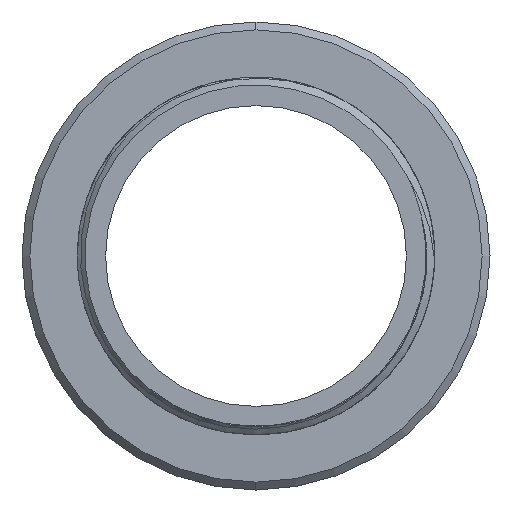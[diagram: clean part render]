
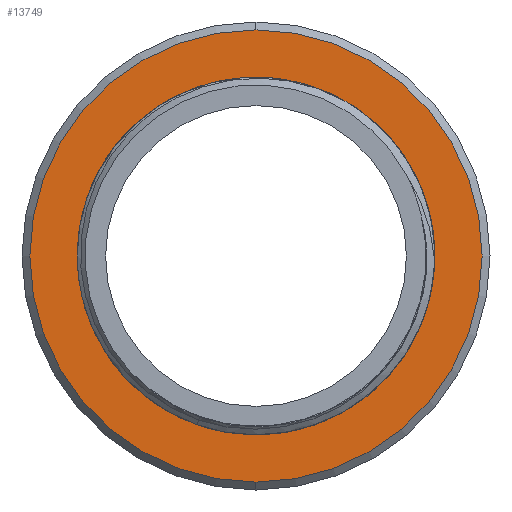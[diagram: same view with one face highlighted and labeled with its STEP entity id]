
A CAD part, left-side view. The second image highlights one B-rep face of the part: STEP entity #13749.
In plain terms, the highlighted planar face has unit normal (-1, 0, 0).
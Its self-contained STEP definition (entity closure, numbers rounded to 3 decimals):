
#2=CARTESIAN_POINT('',(0.,0.,0.));
#3=DIRECTION('',(-1.,0.,0.));
#4=DIRECTION('',(0.,0.,-1.));
#5=AXIS2_PLACEMENT_3D('',#2,#3,#4);
#7=CARTESIAN_POINT('',(0.,0.,0.));
#8=DIRECTION('',(-1.,0.,0.));
#9=DIRECTION('',(0.,0.,1.));
#10=AXIS2_PLACEMENT_3D('',#7,#8,#9);
#20=CARTESIAN_POINT('',(0.,0.,0.));
#21=DIRECTION('',(-1.,0.,0.));
#22=DIRECTION('',(0.,0.,1.));
#23=AXIS2_PLACEMENT_3D('',#20,#21,#22);
#25=CARTESIAN_POINT('',(0.,0.,0.));
#26=DIRECTION('',(1.,0.,0.));
#27=DIRECTION('',(0.,0.,1.));
#28=AXIS2_PLACEMENT_3D('',#25,#26,#27);
#13152=CARTESIAN_POINT('',(0.,0.,6.4));
#13154=VERTEX_POINT('',#13152);
#13156=CARTESIAN_POINT('',(0.,0.,-6.4));
#13158=VERTEX_POINT('',#13156);
#13169=CARTESIAN_POINT('',(0.,0.,-8.59));
#13170=CARTESIAN_POINT('',(0.,0.,8.59));
#13171=VERTEX_POINT('',#13169);
#13172=VERTEX_POINT('',#13170);
#13732=CARTESIAN_POINT('',(0.,0.,0.));
#13733=DIRECTION('',(1.,0.,0.));
#13734=DIRECTION('',(0.,0.,-1.));
#13735=AXIS2_PLACEMENT_3D('',#13732,#13733,#13734);
#13736=PLANE('',#13735);
#13738=ORIENTED_EDGE('',*,*,#13737,.F.);
#13740=ORIENTED_EDGE('',*,*,#13739,.F.);
#13741=EDGE_LOOP('',(#13738,#13740));
#13742=FACE_OUTER_BOUND('',#13741,.F.);
#13744=ORIENTED_EDGE('',*,*,#13743,.T.);
#13746=ORIENTED_EDGE('',*,*,#13745,.F.);
#13747=EDGE_LOOP('',(#13744,#13746));
#13748=FACE_BOUND('',#13747,.F.);
#13749=ADVANCED_FACE('',(#13742,#13748),#13736,.F.);
#6=CIRCLE('',#5,8.59);
#11=CIRCLE('',#10,8.59);
#24=CIRCLE('',#23,6.4);
#29=CIRCLE('',#28,6.4);
#13737=EDGE_CURVE('',#13171,#13172,#6,.T.);
#13739=EDGE_CURVE('',#13172,#13171,#11,.T.);
#13743=EDGE_CURVE('',#13154,#13158,#24,.T.);
#13745=EDGE_CURVE('',#13154,#13158,#29,.T.);
